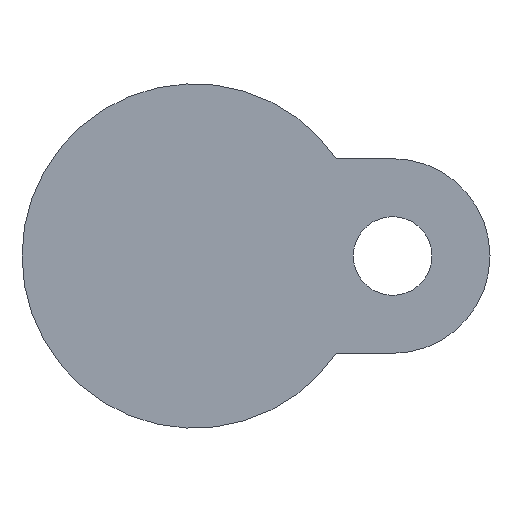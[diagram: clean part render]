
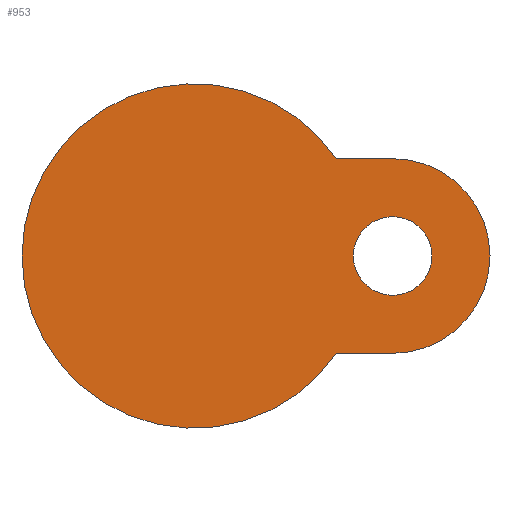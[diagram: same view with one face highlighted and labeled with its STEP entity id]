
A CAD part, front view. The second image highlights one B-rep face of the part: STEP entity #953.
In plain terms, the highlighted planar face has unit normal (0, -1, 0).
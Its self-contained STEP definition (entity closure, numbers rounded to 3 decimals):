
#46 = EDGE_CURVE ( 'NONE', #1010, #547, #490, .T. ) ;
#70 = EDGE_CURVE ( 'NONE', #1428, #547, #297, .T. ) ;
#73 = DIRECTION ( 'NONE',  ( 0., -1., 0. ) ) ;
#85 = FACE_OUTER_BOUND ( 'NONE', #858, .T. ) ;
#113 = VERTEX_POINT ( 'NONE', #442 ) ;
#120 = CIRCLE ( 'NONE', #587, 5.25 ) ;
#195 = DIRECTION ( 'NONE',  ( -1., 0., 0. ) ) ;
#215 = EDGE_LOOP ( 'NONE', ( #1437, #1447 ) ) ;
#233 = AXIS2_PLACEMENT_3D ( 'NONE', #519, #975, #871 ) ;
#258 = DIRECTION ( 'NONE',  ( 0., 1., 0. ) ) ;
#259 = CARTESIAN_POINT ( 'NONE',  ( 21.25, -16., 0. ) ) ;
#267 = EDGE_CURVE ( 'NONE', #544, #1428, #413, .T. ) ;
#297 = LINE ( 'NONE', #750, #648 ) ;
#346 = DIRECTION ( 'NONE',  ( 0., 1., 0. ) ) ;
#352 = LINE ( 'NONE', #682, #393 ) ;
#357 = CARTESIAN_POINT ( 'NONE',  ( 18.974, -16., 13. ) ) ;
#369 = AXIS2_PLACEMENT_3D ( 'NONE', #1218, #1330, #994 ) ;
#393 = VECTOR ( 'NONE', #914, 1000. ) ;
#413 = CIRCLE ( 'NONE', #1251, 13. ) ;
#417 = PLANE ( 'NONE',  #1273 ) ;
#442 = CARTESIAN_POINT ( 'NONE',  ( 31.75, -16., 0. ) ) ;
#446 = CARTESIAN_POINT ( 'NONE',  ( 26.5, -16., 13. ) ) ;
#469 = CARTESIAN_POINT ( 'NONE',  ( 18.974, -16., -13. ) ) ;
#474 = EDGE_CURVE ( 'NONE', #1010, #544, #352, .T. ) ;
#480 = EDGE_CURVE ( 'NONE', #113, #1211, #120, .T. ) ;
#490 = CIRCLE ( 'NONE', #233, 23. ) ;
#519 = CARTESIAN_POINT ( 'NONE',  ( 0., -16., 0. ) ) ;
#526 = DIRECTION ( 'NONE',  ( 1., 0., 0. ) ) ;
#544 = VERTEX_POINT ( 'NONE', #446 ) ;
#547 = VERTEX_POINT ( 'NONE', #469 ) ;
#587 = AXIS2_PLACEMENT_3D ( 'NONE', #1128, #346, #799 ) ;
#648 = VECTOR ( 'NONE', #195, 1000. ) ;
#672 = ORIENTED_EDGE ( 'NONE', *, *, #474, .F. ) ;
#682 = CARTESIAN_POINT ( 'NONE',  ( 13.5, -16., 13. ) ) ;
#684 = ORIENTED_EDGE ( 'NONE', *, *, #46, .T. ) ;
#717 = DIRECTION ( 'NONE',  ( 1., 0., 0. ) ) ;
#750 = CARTESIAN_POINT ( 'NONE',  ( 26.5, -16., -13. ) ) ;
#799 = DIRECTION ( 'NONE',  ( -1., 0., 0. ) ) ;
#858 = EDGE_LOOP ( 'NONE', ( #684, #987, #889, #672 ) ) ;
#871 = DIRECTION ( 'NONE',  ( 1., 0., 0. ) ) ;
#889 = ORIENTED_EDGE ( 'NONE', *, *, #267, .F. ) ;
#901 = CIRCLE ( 'NONE', #369, 5.25 ) ;
#914 = DIRECTION ( 'NONE',  ( 1., 0., 0. ) ) ;
#953 = ADVANCED_FACE ( 'NONE', ( #1091, #85 ), #417, .T. ) ;
#973 = EDGE_CURVE ( 'NONE', #1211, #113, #901, .T. ) ;
#975 = DIRECTION ( 'NONE',  ( 0., -1., 0. ) ) ;
#987 = ORIENTED_EDGE ( 'NONE', *, *, #70, .F. ) ;
#994 = DIRECTION ( 'NONE',  ( -1., 0., 0. ) ) ;
#1004 = CARTESIAN_POINT ( 'NONE',  ( 26.5, -16., -13. ) ) ;
#1010 = VERTEX_POINT ( 'NONE', #357 ) ;
#1091 = FACE_BOUND ( 'NONE', #215, .T. ) ;
#1128 = CARTESIAN_POINT ( 'NONE',  ( 26.5, -16., 0. ) ) ;
#1211 = VERTEX_POINT ( 'NONE', #259 ) ;
#1218 = CARTESIAN_POINT ( 'NONE',  ( 26.5, -16., 0. ) ) ;
#1251 = AXIS2_PLACEMENT_3D ( 'NONE', #1283, #258, #717 ) ;
#1273 = AXIS2_PLACEMENT_3D ( 'NONE', #1300, #73, #526 ) ;
#1283 = CARTESIAN_POINT ( 'NONE',  ( 26.5, -16., 0. ) ) ;
#1300 = CARTESIAN_POINT ( 'NONE',  ( 23., -16., 0. ) ) ;
#1330 = DIRECTION ( 'NONE',  ( 0., 1., 0. ) ) ;
#1428 = VERTEX_POINT ( 'NONE', #1004 ) ;
#1437 = ORIENTED_EDGE ( 'NONE', *, *, #973, .T. ) ;
#1447 = ORIENTED_EDGE ( 'NONE', *, *, #480, .T. ) ;
